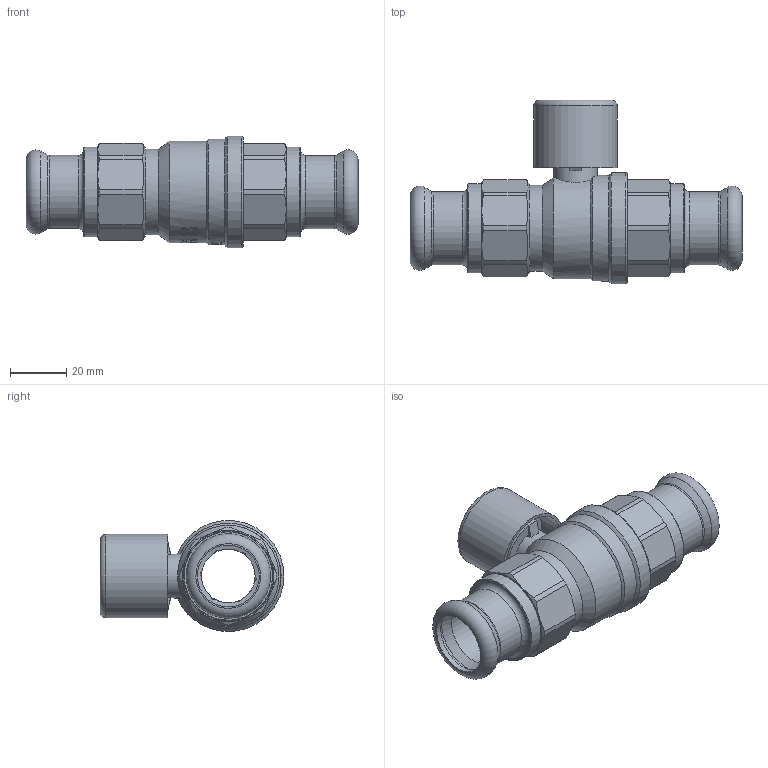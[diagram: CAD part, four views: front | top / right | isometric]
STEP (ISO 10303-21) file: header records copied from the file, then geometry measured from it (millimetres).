
FILE_DESCRIPTION((''),'2;1');
FILE_NAME('P:\Fastrack\53972_CRANE 3D\Press Fit\HATTERSLEY\100LS-PF\22MM\Fig_100LS-PF-22MM.stp','2011-12-09T09:59:20',('dcole'),(''),'Autodesk Inventor 2008','Autodesk Inventor 2008','');
FILE_SCHEMA(('AUTOMOTIVE_DESIGN { 1 0 10303 214 1 1 1 1 }'));
Length unit declared in the file: millimetre
Products named in the file (1): Fig_100LS-PF-22MM
Bounding box: 117.9 x 65.25 x 39.5 mm (x, y, z)
Volume: 50887.6 mm3; surface area: 37636.7 mm2
Topology: 1 solids, 6 shells, 519 faces, 1497 edges, 1035 vertices
Faces by surface type: plane 228, cylinder 102, cone 92, bspline 79, torus 16, sphere 2
Full cylindrical faces by diameter (mm): 2 x2, 8 x1, 8.1 x2, 8.3 x1, 9 x1, 9.5 x1, 10.5 x1, 10.6 x1, 10.75 x1, 15.5 x1, 16.2 x1, 18 x2, 20 x2, 22 x4, 23.5 x2, 24.117 x2, 25 x2, 26 x2, 27 x2, 27.45 x2, 27.6 x1, 29.6 x1, 30.5 x1, 31.8 x2, 32.5 x1, 34 x1, 34.2 x1, 36 x1, 37.5 x1, 39.5 x1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
Entity records: 31925 total; most frequent: CARTESIAN_POINT 18973, ORIENTED_EDGE 2686, DIRECTION 2300, EDGE_CURVE 1343, VERTEX_POINT 986, AXIS2_PLACEMENT_3D 864, EDGE_LOOP 702, VECTOR 572
